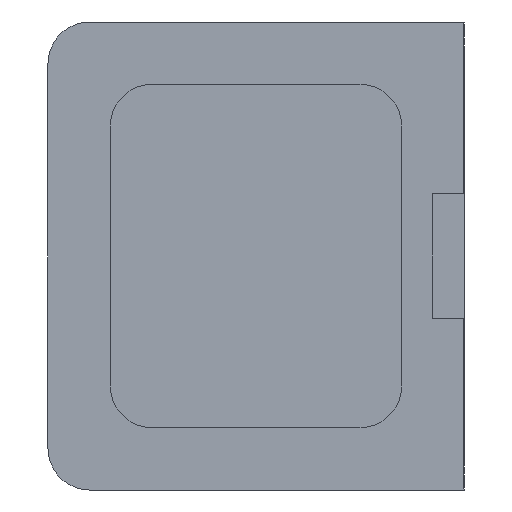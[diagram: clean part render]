
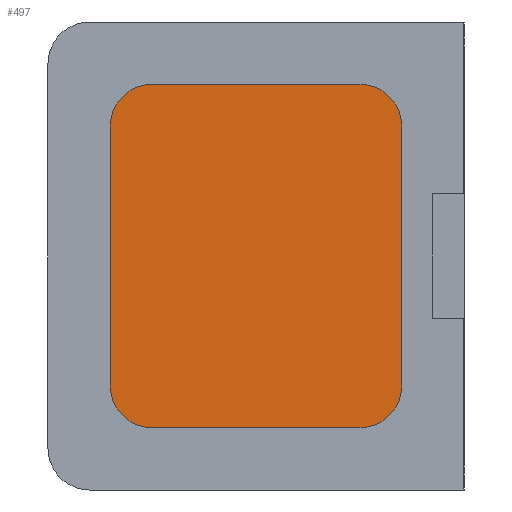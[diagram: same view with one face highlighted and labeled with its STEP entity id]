
A CAD part, left-side view. The second image highlights one B-rep face of the part: STEP entity #497.
In plain terms, the highlighted planar face has unit normal (-1, 0, 0).
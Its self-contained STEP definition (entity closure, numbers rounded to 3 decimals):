
#22 = CARTESIAN_POINT ( 'NONE',  ( -60., 34., 12.5 ) ) ;
#40 = DIRECTION ( 'NONE',  ( -1., 0., 0. ) ) ;
#61 = CARTESIAN_POINT ( 'NONE',  ( -60., 6., 16.5 ) ) ;
#62 = CIRCLE ( 'NONE', #318, 4. ) ;
#78 = DIRECTION ( 'NONE',  ( 0., 1., 0. ) ) ;
#79 = EDGE_CURVE ( 'NONE', #852, #141, #574, .T. ) ;
#80 = VECTOR ( 'NONE', #745, 1000. ) ;
#81 = CARTESIAN_POINT ( 'NONE',  ( -60., 30., -16.5 ) ) ;
#93 = CARTESIAN_POINT ( 'NONE',  ( -60., 0., 0. ) ) ;
#103 = FACE_OUTER_BOUND ( 'NONE', #789, .T. ) ;
#110 = CARTESIAN_POINT ( 'NONE',  ( -60., 30., 12.5 ) ) ;
#115 = CARTESIAN_POINT ( 'NONE',  ( -60., 30., -12.5 ) ) ;
#120 = ORIENTED_EDGE ( 'NONE', *, *, #382, .T. ) ;
#138 = AXIS2_PLACEMENT_3D ( 'NONE', #115, #40, #583 ) ;
#140 = CIRCLE ( 'NONE', #138, 4. ) ;
#141 = VERTEX_POINT ( 'NONE', #223 ) ;
#143 = VERTEX_POINT ( 'NONE', #823 ) ;
#152 = VERTEX_POINT ( 'NONE', #22 ) ;
#153 = ORIENTED_EDGE ( 'NONE', *, *, #586, .F. ) ;
#163 = CARTESIAN_POINT ( 'NONE',  ( -60., 6., 12.5 ) ) ;
#176 = CARTESIAN_POINT ( 'NONE',  ( -60., 34., -16.5 ) ) ;
#194 = VERTEX_POINT ( 'NONE', #571 ) ;
#202 = VECTOR ( 'NONE', #799, 1000. ) ;
#211 = LINE ( 'NONE', #794, #759 ) ;
#223 = CARTESIAN_POINT ( 'NONE',  ( -60., 6., -12.5 ) ) ;
#228 = DIRECTION ( 'NONE',  ( 0., 0., -1. ) ) ;
#230 = ORIENTED_EDGE ( 'NONE', *, *, #473, .T. ) ;
#236 = CARTESIAN_POINT ( 'NONE',  ( -60., 10., 12.5 ) ) ;
#255 = DIRECTION ( 'NONE',  ( -1., 0., 0. ) ) ;
#290 = CARTESIAN_POINT ( 'NONE',  ( -60., 34., 16.5 ) ) ;
#294 = DIRECTION ( 'NONE',  ( 0., 0., -1. ) ) ;
#317 = EDGE_CURVE ( 'NONE', #194, #152, #457, .T. ) ;
#318 = AXIS2_PLACEMENT_3D ( 'NONE', #822, #811, #228 ) ;
#326 = VECTOR ( 'NONE', #836, 1000. ) ;
#340 = LINE ( 'NONE', #290, #80 ) ;
#342 = ORIENTED_EDGE ( 'NONE', *, *, #769, .F. ) ;
#373 = DIRECTION ( 'NONE',  ( 0., 0., -1. ) ) ;
#382 = EDGE_CURVE ( 'NONE', #143, #725, #140, .T. ) ;
#386 = VERTEX_POINT ( 'NONE', #781 ) ;
#436 = ORIENTED_EDGE ( 'NONE', *, *, #597, .T. ) ;
#457 = CIRCLE ( 'NONE', #618, 4. ) ;
#473 = EDGE_CURVE ( 'NONE', #620, #141, #62, .T. ) ;
#497 = ADVANCED_FACE ( 'NONE', ( #103 ), #562, .F. ) ;
#501 = DIRECTION ( 'NONE',  ( 0., 0., -1. ) ) ;
#511 = CARTESIAN_POINT ( 'NONE',  ( -60., 10., -16.5 ) ) ;
#515 = AXIS2_PLACEMENT_3D ( 'NONE', #236, #705, #501 ) ;
#530 = ORIENTED_EDGE ( 'NONE', *, *, #317, .T. ) ;
#562 = PLANE ( 'NONE',  #727 ) ;
#571 = CARTESIAN_POINT ( 'NONE',  ( -60., 30., 16.5 ) ) ;
#574 = LINE ( 'NONE', #61, #202 ) ;
#583 = DIRECTION ( 'NONE',  ( 0., 0., -1. ) ) ;
#586 = EDGE_CURVE ( 'NONE', #143, #152, #677, .T. ) ;
#597 = EDGE_CURVE ( 'NONE', #852, #386, #658, .T. ) ;
#618 = AXIS2_PLACEMENT_3D ( 'NONE', #110, #255, #373 ) ;
#620 = VERTEX_POINT ( 'NONE', #511 ) ;
#658 = CIRCLE ( 'NONE', #515, 4. ) ;
#662 = EDGE_CURVE ( 'NONE', #620, #725, #211, .T. ) ;
#677 = LINE ( 'NONE', #176, #326 ) ;
#705 = DIRECTION ( 'NONE',  ( -1., 0., 0. ) ) ;
#725 = VERTEX_POINT ( 'NONE', #81 ) ;
#727 = AXIS2_PLACEMENT_3D ( 'NONE', #93, #743, #294 ) ;
#743 = DIRECTION ( 'NONE',  ( 1., 0., 0. ) ) ;
#745 = DIRECTION ( 'NONE',  ( 0., -1., 0. ) ) ;
#759 = VECTOR ( 'NONE', #78, 1000. ) ;
#769 = EDGE_CURVE ( 'NONE', #194, #386, #340, .T. ) ;
#781 = CARTESIAN_POINT ( 'NONE',  ( -60., 10., 16.5 ) ) ;
#789 = EDGE_LOOP ( 'NONE', ( #342, #530, #153, #120, #797, #230, #817, #436 ) ) ;
#794 = CARTESIAN_POINT ( 'NONE',  ( -60., 6., -16.5 ) ) ;
#797 = ORIENTED_EDGE ( 'NONE', *, *, #662, .F. ) ;
#799 = DIRECTION ( 'NONE',  ( 0., 0., -1. ) ) ;
#811 = DIRECTION ( 'NONE',  ( -1., 0., 0. ) ) ;
#817 = ORIENTED_EDGE ( 'NONE', *, *, #79, .F. ) ;
#822 = CARTESIAN_POINT ( 'NONE',  ( -60., 10., -12.5 ) ) ;
#823 = CARTESIAN_POINT ( 'NONE',  ( -60., 34., -12.5 ) ) ;
#836 = DIRECTION ( 'NONE',  ( 0., 0., 1. ) ) ;
#852 = VERTEX_POINT ( 'NONE', #163 ) ;
